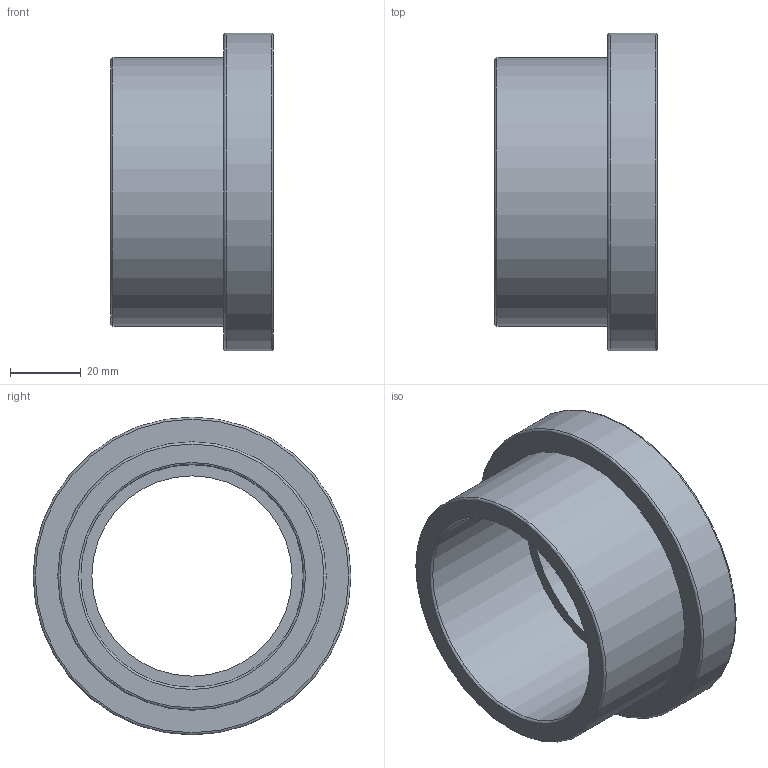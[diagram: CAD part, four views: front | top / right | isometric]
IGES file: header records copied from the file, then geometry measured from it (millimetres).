
Global section: file name: 055000063.ipt; native system: Autodesk Inventor 2015; preprocessor: unknown; author: KIM; date: 20171207.165711; units: millimetre
Bounding box: 46 x 90 x 90 mm (x, y, z)
Volume: 90641 mm3; surface area: 29585.4 mm2
Topology: 1 solids, 1 shells, 21 faces, 60 edges, 45 vertices
Faces by surface type: revolution 12, plane 6, cylinder 3
Full cylindrical faces by diameter (mm): 68.355 x1, 76 x1, 90 x1
